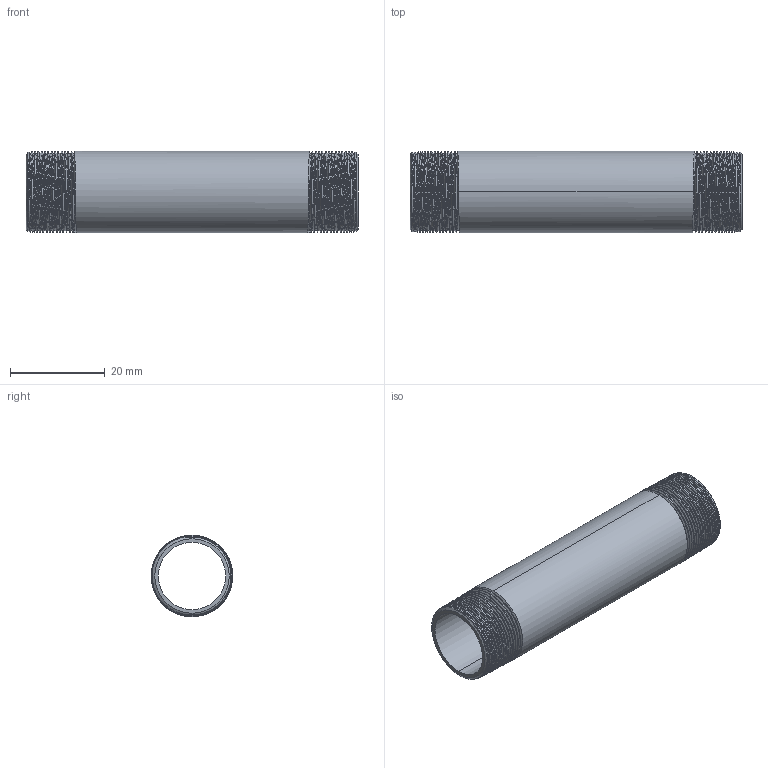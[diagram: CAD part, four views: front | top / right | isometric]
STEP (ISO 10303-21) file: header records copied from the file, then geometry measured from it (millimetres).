
FILE_DESCRIPTION (( 'STEP AP203' ), '1' );
FILE_NAME ('3D_R210_3-8x70_17185694.STEP', '2024-08-16T11:09:09', ( '' ), ( '' ), 'SwSTEP 2.0', 'SolidWorks 2024', '' );
FILE_SCHEMA (( 'CONFIG_CONTROL_DESIGN' ));
Length unit declared in the file: millimetre
Products named in the file (1): 3D_R210_3-8x70_17185694
Bounding box: 70 x 17.18 x 17.2 mm (x, y, z)
Volume: 4933.2 mm3; surface area: 7482.8 mm2
Topology: 1 solids, 1 shells, 76 faces, 218 edges, 144 vertices
Faces by surface type: cone 62, bspline 6, cylinder 4, plane 4
Entity records: 11224 total; most frequent: CARTESIAN_POINT 9454, ORIENTED_EDGE 436, DIRECTION 230, EDGE_CURVE 218, VERTEX_POINT 144, B_SPLINE_CURVE_WITH_KNOTS 132, AXIS2_PLACEMENT_3D 81, EDGE_LOOP 78
